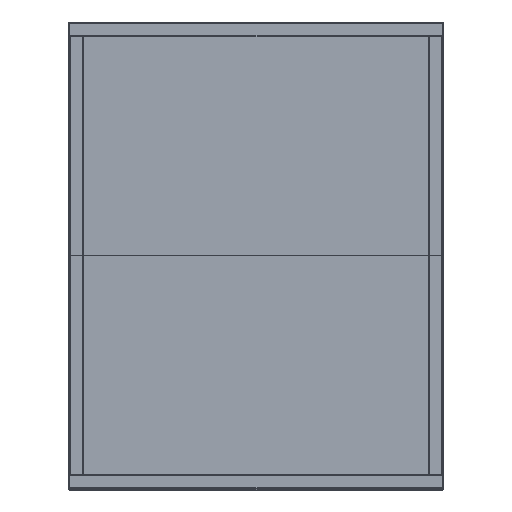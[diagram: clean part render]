
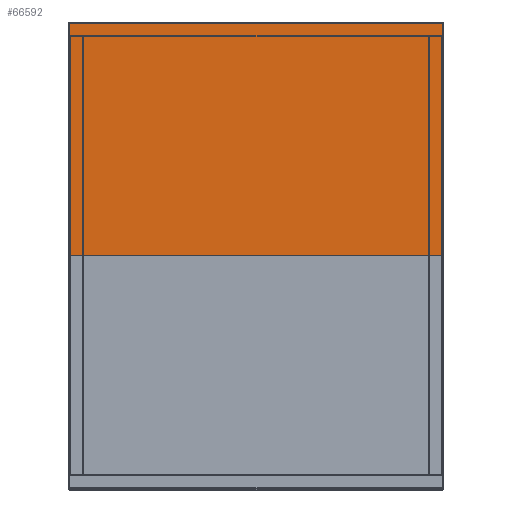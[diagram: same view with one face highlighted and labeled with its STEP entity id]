
A CAD part, top view. The second image highlights one B-rep face of the part: STEP entity #66592.
In plain terms, the highlighted planar face has unit normal (0, 0, 1).
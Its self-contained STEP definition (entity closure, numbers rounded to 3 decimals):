
#66278 = VERTEX_POINT('',#66279);
#66279 = CARTESIAN_POINT('',(-52.,0.,1752.));
#66286 = PLANE('',#66287);
#66287 = AXIS2_PLACEMENT_3D('',#66288,#66289,#66290);
#66288 = CARTESIAN_POINT('',(-52.,0.,1750.));
#66289 = DIRECTION('',(1.,0.,-0.));
#66290 = DIRECTION('',(0.,0.,1.));
#66298 = PLANE('',#66299);
#66299 = AXIS2_PLACEMENT_3D('',#66300,#66301,#66302);
#66300 = CARTESIAN_POINT('',(-52.,0.,1750.));
#66301 = DIRECTION('',(-0.,1.,0.));
#66302 = DIRECTION('',(0.,0.,1.));
#66339 = VERTEX_POINT('',#66340);
#66340 = CARTESIAN_POINT('',(-52.,850.,1752.));
#66354 = PLANE('',#66355);
#66355 = AXIS2_PLACEMENT_3D('',#66356,#66357,#66358);
#66356 = CARTESIAN_POINT('',(-52.,850.,1750.));
#66357 = DIRECTION('',(-0.,1.,0.));
#66358 = DIRECTION('',(0.,0.,1.));
#66366 = EDGE_CURVE('',#66278,#66339,#66367,.T.);
#66367 = SURFACE_CURVE('',#66368,(#66372,#66379),.PCURVE_S1.);
#66368 = LINE('',#66369,#66370);
#66369 = CARTESIAN_POINT('',(-52.,0.,1752.));
#66370 = VECTOR('',#66371,1.);
#66371 = DIRECTION('',(-0.,1.,0.));
#66372 = PCURVE('',#66286,#66373);
#66373 = DEFINITIONAL_REPRESENTATION('',(#66374),#66378);
#66374 = LINE('',#66375,#66376);
#66375 = CARTESIAN_POINT('',(2.,0.));
#66376 = VECTOR('',#66377,1.);
#66377 = DIRECTION('',(0.,-1.));
#66378 = ( GEOMETRIC_REPRESENTATION_CONTEXT(2) 
PARAMETRIC_REPRESENTATION_CONTEXT() REPRESENTATION_CONTEXT('2D SPACE',''
  ) );
#66379 = PCURVE('',#66380,#66385);
#66380 = PLANE('',#66381);
#66381 = AXIS2_PLACEMENT_3D('',#66382,#66383,#66384);
#66382 = CARTESIAN_POINT('',(-52.,0.,1752.));
#66383 = DIRECTION('',(0.,0.,1.));
#66384 = DIRECTION('',(1.,0.,-0.));
#66385 = DEFINITIONAL_REPRESENTATION('',(#66386),#66390);
#66386 = LINE('',#66387,#66388);
#66387 = CARTESIAN_POINT('',(0.,0.));
#66388 = VECTOR('',#66389,1.);
#66389 = DIRECTION('',(0.,1.));
#66390 = ( GEOMETRIC_REPRESENTATION_CONTEXT(2) 
PARAMETRIC_REPRESENTATION_CONTEXT() REPRESENTATION_CONTEXT('2D SPACE',''
  ) );
#66398 = VERTEX_POINT('',#66399);
#66399 = CARTESIAN_POINT('',(1312.,0.,1752.));
#66406 = PLANE('',#66407);
#66407 = AXIS2_PLACEMENT_3D('',#66408,#66409,#66410);
#66408 = CARTESIAN_POINT('',(1312.,0.,1750.));
#66409 = DIRECTION('',(1.,0.,-0.));
#66410 = DIRECTION('',(0.,0.,1.));
#66449 = VERTEX_POINT('',#66450);
#66450 = CARTESIAN_POINT('',(1312.,850.,1752.));
#66471 = EDGE_CURVE('',#66398,#66449,#66472,.T.);
#66472 = SURFACE_CURVE('',#66473,(#66477,#66484),.PCURVE_S1.);
#66473 = LINE('',#66474,#66475);
#66474 = CARTESIAN_POINT('',(1312.,0.,1752.));
#66475 = VECTOR('',#66476,1.);
#66476 = DIRECTION('',(-0.,1.,0.));
#66477 = PCURVE('',#66406,#66478);
#66478 = DEFINITIONAL_REPRESENTATION('',(#66479),#66483);
#66479 = LINE('',#66480,#66481);
#66480 = CARTESIAN_POINT('',(2.,0.));
#66481 = VECTOR('',#66482,1.);
#66482 = DIRECTION('',(0.,-1.));
#66483 = ( GEOMETRIC_REPRESENTATION_CONTEXT(2) 
PARAMETRIC_REPRESENTATION_CONTEXT() REPRESENTATION_CONTEXT('2D SPACE',''
  ) );
#66484 = PCURVE('',#66380,#66485);
#66485 = DEFINITIONAL_REPRESENTATION('',(#66486),#66490);
#66486 = LINE('',#66487,#66488);
#66487 = CARTESIAN_POINT('',(1364.,0.));
#66488 = VECTOR('',#66489,1.);
#66489 = DIRECTION('',(0.,1.));
#66490 = ( GEOMETRIC_REPRESENTATION_CONTEXT(2) 
PARAMETRIC_REPRESENTATION_CONTEXT() REPRESENTATION_CONTEXT('2D SPACE',''
  ) );
#66517 = EDGE_CURVE('',#66278,#66398,#66518,.T.);
#66518 = SURFACE_CURVE('',#66519,(#66523,#66530),.PCURVE_S1.);
#66519 = LINE('',#66520,#66521);
#66520 = CARTESIAN_POINT('',(-52.,0.,1752.));
#66521 = VECTOR('',#66522,1.);
#66522 = DIRECTION('',(1.,0.,-0.));
#66523 = PCURVE('',#66298,#66524);
#66524 = DEFINITIONAL_REPRESENTATION('',(#66525),#66529);
#66525 = LINE('',#66526,#66527);
#66526 = CARTESIAN_POINT('',(2.,0.));
#66527 = VECTOR('',#66528,1.);
#66528 = DIRECTION('',(0.,1.));
#66529 = ( GEOMETRIC_REPRESENTATION_CONTEXT(2) 
PARAMETRIC_REPRESENTATION_CONTEXT() REPRESENTATION_CONTEXT('2D SPACE',''
  ) );
#66530 = PCURVE('',#66380,#66531);
#66531 = DEFINITIONAL_REPRESENTATION('',(#66532),#66536);
#66532 = LINE('',#66533,#66534);
#66533 = CARTESIAN_POINT('',(0.,0.));
#66534 = VECTOR('',#66535,1.);
#66535 = DIRECTION('',(1.,0.));
#66536 = ( GEOMETRIC_REPRESENTATION_CONTEXT(2) 
PARAMETRIC_REPRESENTATION_CONTEXT() REPRESENTATION_CONTEXT('2D SPACE',''
  ) );
#66564 = EDGE_CURVE('',#66339,#66449,#66565,.T.);
#66565 = SURFACE_CURVE('',#66566,(#66570,#66577),.PCURVE_S1.);
#66566 = LINE('',#66567,#66568);
#66567 = CARTESIAN_POINT('',(-52.,850.,1752.));
#66568 = VECTOR('',#66569,1.);
#66569 = DIRECTION('',(1.,0.,-0.));
#66570 = PCURVE('',#66354,#66571);
#66571 = DEFINITIONAL_REPRESENTATION('',(#66572),#66576);
#66572 = LINE('',#66573,#66574);
#66573 = CARTESIAN_POINT('',(2.,0.));
#66574 = VECTOR('',#66575,1.);
#66575 = DIRECTION('',(0.,1.));
#66576 = ( GEOMETRIC_REPRESENTATION_CONTEXT(2) 
PARAMETRIC_REPRESENTATION_CONTEXT() REPRESENTATION_CONTEXT('2D SPACE',''
  ) );
#66577 = PCURVE('',#66380,#66578);
#66578 = DEFINITIONAL_REPRESENTATION('',(#66579),#66583);
#66579 = LINE('',#66580,#66581);
#66580 = CARTESIAN_POINT('',(0.,850.));
#66581 = VECTOR('',#66582,1.);
#66582 = DIRECTION('',(1.,0.));
#66583 = ( GEOMETRIC_REPRESENTATION_CONTEXT(2) 
PARAMETRIC_REPRESENTATION_CONTEXT() REPRESENTATION_CONTEXT('2D SPACE',''
  ) );
#66592 = ADVANCED_FACE('',(#66593),#66380,.T.);
#66593 = FACE_BOUND('',#66594,.T.);
#66594 = EDGE_LOOP('',(#66595,#66596,#66597,#66598));
#66595 = ORIENTED_EDGE('',*,*,#66366,.F.);
#66596 = ORIENTED_EDGE('',*,*,#66517,.T.);
#66597 = ORIENTED_EDGE('',*,*,#66471,.T.);
#66598 = ORIENTED_EDGE('',*,*,#66564,.F.);
